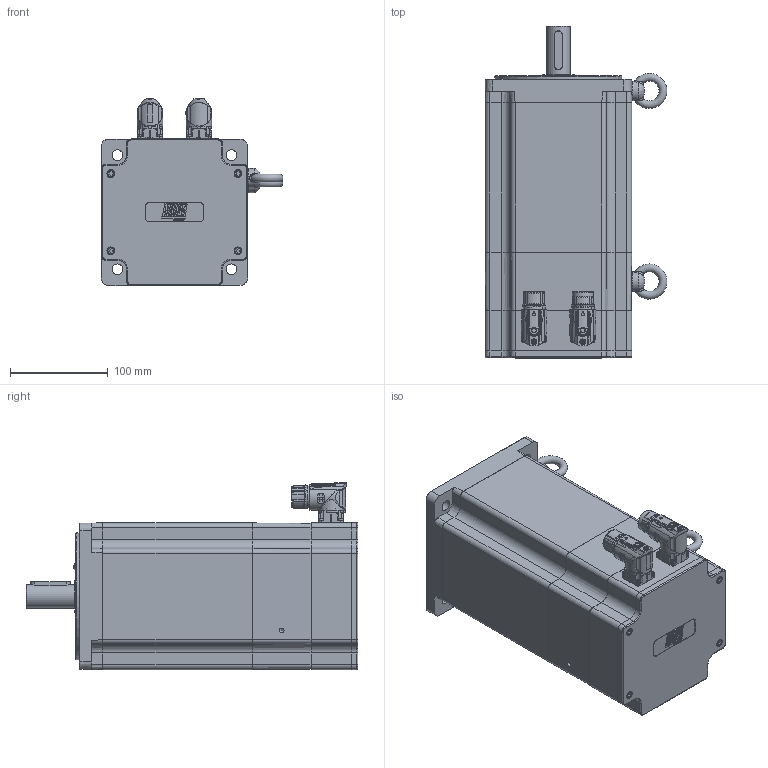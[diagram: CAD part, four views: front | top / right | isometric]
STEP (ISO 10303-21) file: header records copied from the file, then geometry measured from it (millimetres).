
FILE_DESCRIPTION(/* description */ ('Unknown'),/* implementation_level */ '2;1');
FILE_NAME(/* name */ 'TC4-150.6B.XX.X.3.M1.1.X.G2.00.00 Q0B753',/* time_stamp */ '2026-03-06T11:57:37+01:00',/* author */ ('Unknown'),/* organization */ ('Unknown'),/* preprocessor_version */ 'ST-DEVELOPER v19.4',/* originating_system */ 'Solid Edge',/* authorisation */ 'Unknown');
FILE_SCHEMA (('AUTOMOTIVE_DESIGN {1 0 10303 214 3 1 1}'));
Products named in the file (15): Q0B753 6B FRENO M1 VUOTO; 003155002228; 005113000600; 005321000040; 005911000252; 003103040225; 005911000223; 005911000185; 003251040619; 007117000456; Coperchio campana TC4-150; 007117000454; 005119002043; 003151003170; 003003200233
Assembly tree (28 placements, depth 2):
  Q0B753 6B FRENO M1 VUOTO
    003155002228
    005113000600
    005321000040  x2
    005911000252  x4
    003103040225
    005911000223  x4
    005911000185  x8
    003251040619
    007117000456
    Coperchio campana TC4-150
    007117000454
    005119002043
    003151003170
    003003200233
Bounding box: 185.99 x 339.5 x 191.51 mm (x, y, z)
Volume: 2072826.5 mm3; surface area: 562876.2 mm2
Topology: 28 solids, 29 shells, 2434 faces, 6081 edges, 3864 vertices
Faces by surface type: plane 1010, cylinder 526, bspline 412, cone 285, torus 152, sphere 49
Full cylindrical faces by diameter (mm): 0.5 x1, 1 x21, 1.2 x17, 1.4 x4, 2 x4, 2.013 x8, 2.459 x2, 2.5 x8, 2.8 x4, 3 x12, 3.2 x1, 3.242 x12, 4 x4, 4.134 x8, 4.2 x1, 4.5 x10, 4.7 x8, 4.917 x12, 5 x6, 5.5 x10, 5.8 x1, 5.9 x2, 6 x3, 6.647 x2, 6.8 x1, 7 x4, 8 x4, 8.4 x1, 8.5 x4, 9 x4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
Entity records: 89597 total; most frequent: CARTESIAN_POINT 26026, ORIENTED_EDGE 10120, DIRECTION 9065, EDGE_CURVE 5060, AXIS2_PLACEMENT_3D 3504, VERTEX_POINT 3454, FACE_BOUND 2914, EDGE_LOOP 2891
